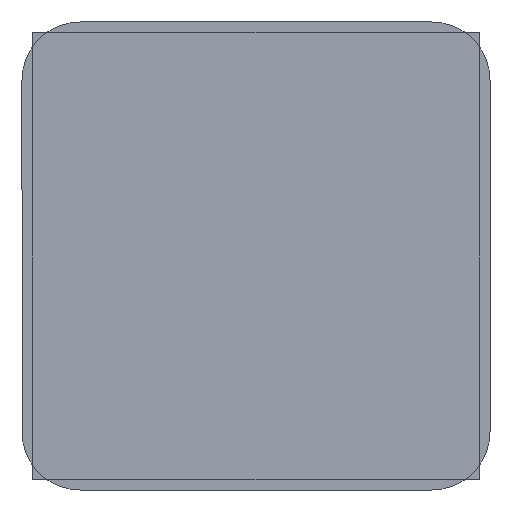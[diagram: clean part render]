
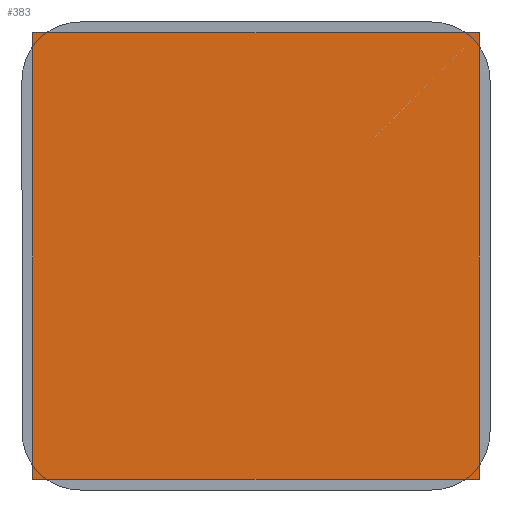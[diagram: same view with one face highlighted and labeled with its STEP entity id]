
A CAD part, front view. The second image highlights one B-rep face of the part: STEP entity #383.
In plain terms, the highlighted planar face has unit normal (0, -1, 0).
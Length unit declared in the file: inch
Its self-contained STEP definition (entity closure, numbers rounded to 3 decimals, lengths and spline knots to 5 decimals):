
#193 = LINE ( 'NONE', #4428, #1805 ) ;
#297 = VERTEX_POINT ( 'NONE', #2351 ) ;
#383 = ADVANCED_FACE ( 'NONE', ( #1998 ), #581, .F. ) ;
#489 = VERTEX_POINT ( 'NONE', #2822 ) ;
#581 = PLANE ( 'NONE',  #4465 ) ;
#776 = CARTESIAN_POINT ( 'NONE',  ( -0.5, -0.005, -0.5 ) ) ;
#826 = EDGE_CURVE ( 'NONE', #2919, #297, #4055, .T. ) ;
#835 = EDGE_CURVE ( 'NONE', #4687, #489, #193, .T. ) ;
#1281 = DIRECTION ( 'NONE',  ( 0., 0., -1. ) ) ;
#1805 = VECTOR ( 'NONE', #4786, 39.37008 ) ;
#1998 = FACE_OUTER_BOUND ( 'NONE', #4537, .T. ) ;
#2077 = DIRECTION ( 'NONE',  ( 0., 1., 0. ) ) ;
#2117 = CARTESIAN_POINT ( 'NONE',  ( 0.5, -0.005, -0.5 ) ) ;
#2127 = CARTESIAN_POINT ( 'NONE',  ( -0.5, -0.005, 0.5 ) ) ;
#2204 = VECTOR ( 'NONE', #1281, 39.37008 ) ;
#2241 = CARTESIAN_POINT ( 'NONE',  ( -0.5, -0.005, 0.5 ) ) ;
#2267 = DIRECTION ( 'NONE',  ( -1., 0., 0. ) ) ;
#2351 = CARTESIAN_POINT ( 'NONE',  ( 0.5, -0.005, -0.5 ) ) ;
#2541 = EDGE_CURVE ( 'NONE', #297, #4687, #4825, .T. ) ;
#2822 = CARTESIAN_POINT ( 'NONE',  ( -0.5, -0.005, 0.5 ) ) ;
#2919 = VERTEX_POINT ( 'NONE', #4013 ) ;
#3387 = VECTOR ( 'NONE', #2267, 39.37008 ) ;
#3432 = EDGE_CURVE ( 'NONE', #489, #2919, #4157, .T. ) ;
#3588 = DIRECTION ( 'NONE',  ( 0., 0., 1. ) ) ;
#3594 = ORIENTED_EDGE ( 'NONE', *, *, #826, .F. ) ;
#3765 = DIRECTION ( 'NONE',  ( 1., 0., 0. ) ) ;
#3838 = ORIENTED_EDGE ( 'NONE', *, *, #835, .F. ) ;
#3890 = ORIENTED_EDGE ( 'NONE', *, *, #2541, .F. ) ;
#4013 = CARTESIAN_POINT ( 'NONE',  ( 0.5, -0.005, 0.5 ) ) ;
#4055 = LINE ( 'NONE', #2117, #2204 ) ;
#4157 = LINE ( 'NONE', #2241, #4827 ) ;
#4428 = CARTESIAN_POINT ( 'NONE',  ( -0.5, -0.005, -0.5 ) ) ;
#4465 = AXIS2_PLACEMENT_3D ( 'NONE', #2127, #2077, #3588 ) ;
#4512 = CARTESIAN_POINT ( 'NONE',  ( -0.5, -0.005, -0.5 ) ) ;
#4537 = EDGE_LOOP ( 'NONE', ( #3838, #3890, #3594, #4668 ) ) ;
#4668 = ORIENTED_EDGE ( 'NONE', *, *, #3432, .F. ) ;
#4687 = VERTEX_POINT ( 'NONE', #776 ) ;
#4786 = DIRECTION ( 'NONE',  ( 0., 0., 1. ) ) ;
#4825 = LINE ( 'NONE', #4512, #3387 ) ;
#4827 = VECTOR ( 'NONE', #3765, 39.37008 ) ;
